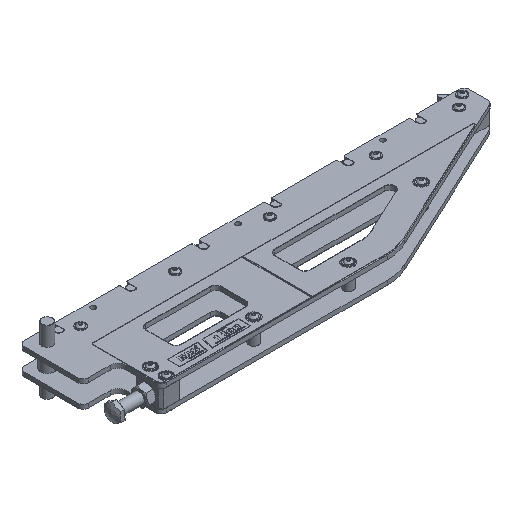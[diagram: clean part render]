
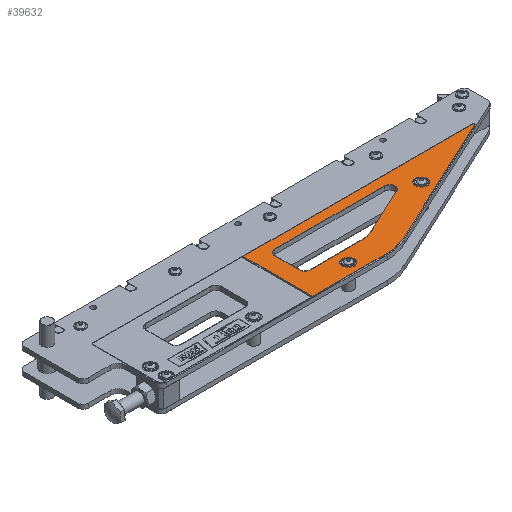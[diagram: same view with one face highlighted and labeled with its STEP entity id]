
A CAD part, isometric view. The second image highlights one B-rep face of the part: STEP entity #39632.
In plain terms, the highlighted planar face has unit normal (0, 0, 1).
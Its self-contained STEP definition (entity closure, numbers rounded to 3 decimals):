
#2414=FACE_BOUND('',#7036,.T.);
#2415=FACE_BOUND('',#7037,.T.);
#2416=FACE_BOUND('',#7038,.T.);
#2912=PLANE('',#42069);
#4622=FACE_OUTER_BOUND('',#7035,.T.);
#7035=EDGE_LOOP('',(#29952,#29953,#29954,#29955,#29956,#29957));
#7036=EDGE_LOOP('',(#29958,#29959,#29960,#29961,#29962,#29963,#29964,#29965));
#7037=EDGE_LOOP('',(#29966));
#7038=EDGE_LOOP('',(#29967));
#9701=LINE('',#55975,#13921);
#9704=LINE('',#55981,#13924);
#9705=LINE('',#55983,#13925);
#9706=LINE('',#55985,#13926);
#9707=LINE('',#55991,#13927);
#9708=LINE('',#55995,#13928);
#9709=LINE('',#55999,#13929);
#9710=LINE('',#56002,#13930);
#13921=VECTOR('',#45674,275.676);
#13924=VECTOR('',#45679,427.573);
#13925=VECTOR('',#45680,129.5);
#13926=VECTOR('',#45681,137.154);
#13927=VECTOR('',#45686,96.731);
#13928=VECTOR('',#45689,45.9);
#13929=VECTOR('',#45692,204.032);
#13930=VECTOR('',#45695,99.741);
#17648=CIRCLE('',#42067,2.);
#17649=CIRCLE('',#42070,98.);
#17650=CIRCLE('',#42071,50.);
#17651=CIRCLE('',#42072,10.);
#17652=CIRCLE('',#42073,10.);
#17653=CIRCLE('',#42074,10.);
#17654=CIRCLE('',#42075,11.);
#17655=CIRCLE('',#42076,11.);
#18617=VERTEX_POINT('',#55968);
#18618=VERTEX_POINT('',#55970);
#18619=VERTEX_POINT('',#55974);
#18621=VERTEX_POINT('',#55980);
#18622=VERTEX_POINT('',#55982);
#18623=VERTEX_POINT('',#55984);
#18624=VERTEX_POINT('',#55987);
#18625=VERTEX_POINT('',#55988);
#18626=VERTEX_POINT('',#55990);
#18627=VERTEX_POINT('',#55992);
#18628=VERTEX_POINT('',#55994);
#18629=VERTEX_POINT('',#55996);
#18630=VERTEX_POINT('',#55998);
#18631=VERTEX_POINT('',#56000);
#18632=VERTEX_POINT('',#56003);
#18633=VERTEX_POINT('',#56005);
#22890=EDGE_CURVE('',#18617,#18618,#17648,.T.);
#22892=EDGE_CURVE('',#18619,#18618,#9701,.T.);
#22895=EDGE_CURVE('',#18617,#18621,#9704,.T.);
#22896=EDGE_CURVE('',#18621,#18622,#9705,.T.);
#22897=EDGE_CURVE('',#18622,#18623,#9706,.T.);
#22898=EDGE_CURVE('',#18623,#18619,#17649,.T.);
#22899=EDGE_CURVE('',#18624,#18625,#17650,.T.);
#22900=EDGE_CURVE('',#18626,#18624,#9707,.T.);
#22901=EDGE_CURVE('',#18627,#18626,#17651,.T.);
#22902=EDGE_CURVE('',#18628,#18627,#9708,.T.);
#22903=EDGE_CURVE('',#18629,#18628,#17652,.T.);
#22904=EDGE_CURVE('',#18630,#18629,#9709,.T.);
#22905=EDGE_CURVE('',#18631,#18630,#17653,.T.);
#22906=EDGE_CURVE('',#18625,#18631,#9710,.T.);
#22907=EDGE_CURVE('',#18632,#18632,#17654,.T.);
#22908=EDGE_CURVE('',#18633,#18633,#17655,.T.);
#29952=ORIENTED_EDGE('',*,*,#22890,.F.);
#29953=ORIENTED_EDGE('',*,*,#22895,.T.);
#29954=ORIENTED_EDGE('',*,*,#22896,.T.);
#29955=ORIENTED_EDGE('',*,*,#22897,.T.);
#29956=ORIENTED_EDGE('',*,*,#22898,.T.);
#29957=ORIENTED_EDGE('',*,*,#22892,.T.);
#29958=ORIENTED_EDGE('',*,*,#22899,.F.);
#29959=ORIENTED_EDGE('',*,*,#22900,.F.);
#29960=ORIENTED_EDGE('',*,*,#22901,.F.);
#29961=ORIENTED_EDGE('',*,*,#22902,.F.);
#29962=ORIENTED_EDGE('',*,*,#22903,.F.);
#29963=ORIENTED_EDGE('',*,*,#22904,.F.);
#29964=ORIENTED_EDGE('',*,*,#22905,.F.);
#29965=ORIENTED_EDGE('',*,*,#22906,.F.);
#29966=ORIENTED_EDGE('',*,*,#22907,.T.);
#29967=ORIENTED_EDGE('',*,*,#22908,.T.);
#39632=ADVANCED_FACE('',(#4622,#2414,#2415,#2416),#2912,.T.);
#42067=AXIS2_PLACEMENT_3D('',#55971,#45669,#45670);
#42069=AXIS2_PLACEMENT_3D('',#55979,#45677,#45678);
#42070=AXIS2_PLACEMENT_3D('',#55986,#45682,#45683);
#42071=AXIS2_PLACEMENT_3D('',#55989,#45684,#45685);
#42072=AXIS2_PLACEMENT_3D('',#55993,#45687,#45688);
#42073=AXIS2_PLACEMENT_3D('',#55997,#45690,#45691);
#42074=AXIS2_PLACEMENT_3D('',#56001,#45693,#45694);
#42075=AXIS2_PLACEMENT_3D('',#56004,#45696,#45697);
#42076=AXIS2_PLACEMENT_3D('',#56006,#45698,#45699);
#45669=DIRECTION('center_axis',(0.,0.,-1.));
#45670=DIRECTION('ref_axis',(0.976,0.216,0.));
#45674=DIRECTION('',(0.906,0.423,0.));
#45677=DIRECTION('center_axis',(0.,0.,1.));
#45678=DIRECTION('ref_axis',(1.,0.,0.));
#45679=DIRECTION('',(-1.,0.,0.));
#45680=DIRECTION('',(0.,-1.,0.));
#45681=DIRECTION('',(1.,0.,0.));
#45682=DIRECTION('center_axis',(0.,0.,1.));
#45683=DIRECTION('ref_axis',(0.,1.,0.));
#45684=DIRECTION('center_axis',(0.,0.,1.));
#45685=DIRECTION('ref_axis',(0.216,-0.976,0.));
#45686=DIRECTION('',(1.,0.,0.));
#45687=DIRECTION('center_axis',(0.,0.,1.));
#45688=DIRECTION('ref_axis',(-0.707,-0.707,0.));
#45689=DIRECTION('',(0.,-1.,0.));
#45690=DIRECTION('center_axis',(0.,0.,1.));
#45691=DIRECTION('ref_axis',(-0.707,0.707,0.));
#45692=DIRECTION('',(-1.,0.,0.));
#45693=DIRECTION('center_axis',(0.,0.,1.));
#45694=DIRECTION('ref_axis',(0.976,0.216,0.));
#45695=DIRECTION('',(0.906,0.423,0.));
#45696=DIRECTION('center_axis',(0.,0.,-1.));
#45697=DIRECTION('ref_axis',(-1.,0.,0.));
#45698=DIRECTION('center_axis',(0.,0.,-1.));
#45699=DIRECTION('ref_axis',(-1.,0.,0.));
#55968=CARTESIAN_POINT('',(776.573,131.5,0.7));
#55970=CARTESIAN_POINT('',(777.418,127.687,0.7));
#55971=CARTESIAN_POINT('Origin',(776.573,129.5,0.7));
#55974=CARTESIAN_POINT('',(527.571,11.182,0.7));
#55975=CARTESIAN_POINT('',(623.029,55.695,0.7));
#55979=CARTESIAN_POINT('Origin',(393.627,123.222,0.7));
#55980=CARTESIAN_POINT('',(349.,131.5,0.7));
#55981=CARTESIAN_POINT('',(230.313,131.5,0.7));
#55982=CARTESIAN_POINT('',(349.,2.,0.7));
#55983=CARTESIAN_POINT('',(349.,127.361,0.7));
#55984=CARTESIAN_POINT('',(486.154,2.,0.7));
#55985=CARTESIAN_POINT('',(439.891,2.,0.7));
#55986=CARTESIAN_POINT('Origin',(486.154,100.,0.7));
#55987=CARTESIAN_POINT('',(486.731,47.4,0.7));
#55988=CARTESIAN_POINT('',(507.862,52.085,0.7));
#55989=CARTESIAN_POINT('Origin',(486.731,97.4,0.7));
#55990=CARTESIAN_POINT('',(390.,47.4,0.7));
#55991=CARTESIAN_POINT('',(445.721,47.4,0.7));
#55992=CARTESIAN_POINT('',(380.,57.4,0.7));
#55993=CARTESIAN_POINT('Origin',(390.,57.4,0.7));
#55994=CARTESIAN_POINT('',(380.,103.3,0.7));
#55995=CARTESIAN_POINT('',(380.,85.311,0.7));
#55996=CARTESIAN_POINT('',(390.,113.3,0.7));
#55997=CARTESIAN_POINT('Origin',(390.,103.3,0.7));
#55998=CARTESIAN_POINT('',(594.032,113.3,0.7));
#55999=CARTESIAN_POINT('',(386.813,113.3,0.7));
#56000=CARTESIAN_POINT('',(598.258,94.237,0.7));
#56001=CARTESIAN_POINT('Origin',(594.032,103.3,0.7));
#56002=CARTESIAN_POINT('',(540.208,67.168,0.7));
#56003=CARTESIAN_POINT('',(448.5,23.7,0.7));
#56004=CARTESIAN_POINT('Origin',(437.5,23.7,0.7));
#56005=CARTESIAN_POINT('',(646.,85.22,0.7));
#56006=CARTESIAN_POINT('Origin',(635.,85.22,0.7));
